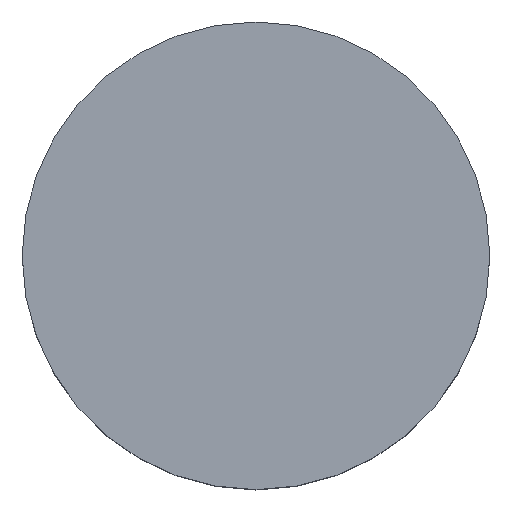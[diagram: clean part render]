
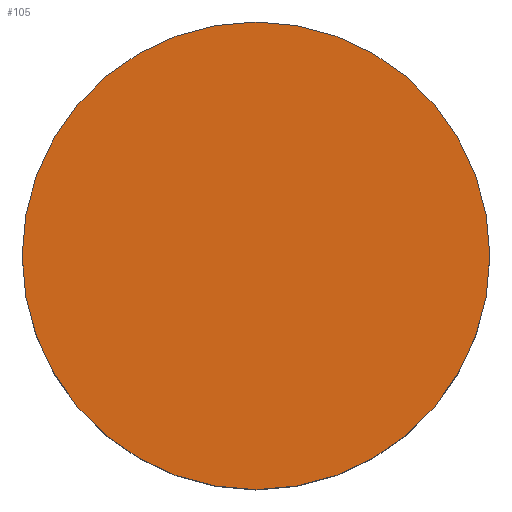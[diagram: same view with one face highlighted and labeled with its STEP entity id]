
A CAD part, top view. The second image highlights one B-rep face of the part: STEP entity #105.
In plain terms, the highlighted planar face has unit normal (0, 0, 1).
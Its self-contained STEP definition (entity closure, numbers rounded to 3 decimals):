
#21 = EDGE_CURVE('',#22,#22,#24,.T.);
#22 = VERTEX_POINT('',#23);
#23 = CARTESIAN_POINT('',(3.,0.,25.1));
#24 = SURFACE_CURVE('',#25,(#30,#42),.PCURVE_S1.);
#25 = CIRCLE('',#26,3.);
#26 = AXIS2_PLACEMENT_3D('',#27,#28,#29);
#27 = CARTESIAN_POINT('',(0.,0.,25.1));
#28 = DIRECTION('',(0.,0.,1.));
#29 = DIRECTION('',(1.,0.,-0.));
#30 = PCURVE('',#31,#36);
#31 = CYLINDRICAL_SURFACE('',#32,3.);
#32 = AXIS2_PLACEMENT_3D('',#33,#34,#35);
#33 = CARTESIAN_POINT('',(0.,0.,22.6));
#34 = DIRECTION('',(0.,0.,1.));
#35 = DIRECTION('',(1.,0.,-0.));
#36 = DEFINITIONAL_REPRESENTATION('',(#37),#41);
#37 = LINE('',#38,#39);
#38 = CARTESIAN_POINT('',(0.,2.5));
#39 = VECTOR('',#40,1.);
#40 = DIRECTION('',(1.,0.));
#41 = ( GEOMETRIC_REPRESENTATION_CONTEXT(2) 
PARAMETRIC_REPRESENTATION_CONTEXT() REPRESENTATION_CONTEXT('2D SPACE',''
  ) );
#42 = PCURVE('',#43,#48);
#43 = PLANE('',#44);
#44 = AXIS2_PLACEMENT_3D('',#45,#46,#47);
#45 = CARTESIAN_POINT('',(0.,0.,25.1));
#46 = DIRECTION('',(0.,0.,1.));
#47 = DIRECTION('',(1.,0.,-0.));
#48 = DEFINITIONAL_REPRESENTATION('',(#49),#53);
#49 = CIRCLE('',#50,3.);
#50 = AXIS2_PLACEMENT_2D('',#51,#52);
#51 = CARTESIAN_POINT('',(0.,0.));
#52 = DIRECTION('',(1.,0.));
#53 = ( GEOMETRIC_REPRESENTATION_CONTEXT(2) 
PARAMETRIC_REPRESENTATION_CONTEXT() REPRESENTATION_CONTEXT('2D SPACE',''
  ) );
#105 = ADVANCED_FACE('',(#106),#43,.T.);
#106 = FACE_BOUND('',#107,.T.);
#107 = EDGE_LOOP('',(#108));
#108 = ORIENTED_EDGE('',*,*,#21,.T.);
